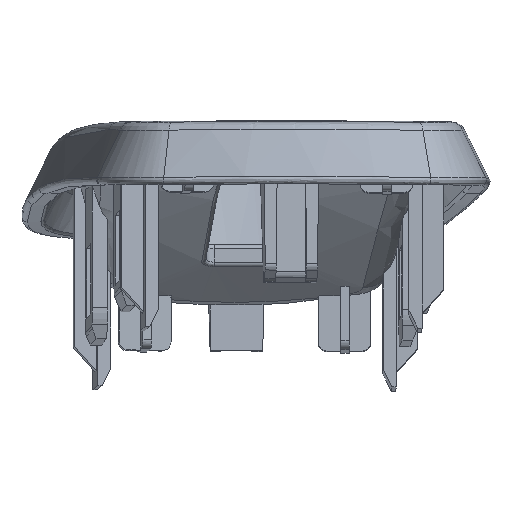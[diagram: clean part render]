
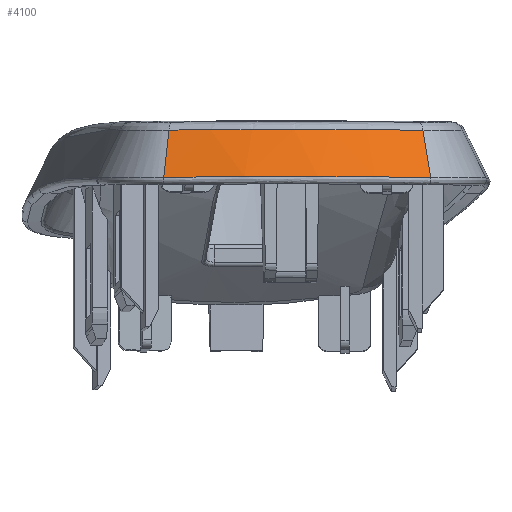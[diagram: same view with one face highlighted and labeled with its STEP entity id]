
A CAD part, top view. The second image highlights one B-rep face of the part: STEP entity #4100.
In plain terms, the highlighted free-form (B-spline) face has degree [5, 1] with [6, 2] control points.
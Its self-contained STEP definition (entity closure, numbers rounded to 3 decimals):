
#2399=CARTESIAN_POINT('Vertex',(136.882,-439.79,1045.759)) ;
#2447=CARTESIAN_POINT('Vertex',(166.043,-439.801,1043.936)) ;
#2451=CARTESIAN_POINT('Control Point',(151.296,-439.721,1046.995)) ;
#2452=CARTESIAN_POINT('Control Point',(148.393,-439.721,1047.169)) ;
#2453=CARTESIAN_POINT('Control Point',(145.473,-439.727,1047.132)) ;
#2454=CARTESIAN_POINT('Control Point',(142.569,-439.741,1046.878)) ;
#2455=CARTESIAN_POINT('Control Point',(139.723,-439.762,1046.407)) ;
#2456=CARTESIAN_POINT('Control Point',(136.882,-439.79,1045.759)) ;
#2457=CARTESIAN_POINT('Vertex',(151.296,-439.721,1046.995)) ;
#2461=CARTESIAN_POINT('Control Point',(166.043,-439.801,1043.936)) ;
#2462=CARTESIAN_POINT('Control Point',(163.146,-439.768,1044.953)) ;
#2463=CARTESIAN_POINT('Control Point',(160.278,-439.745,1045.777)) ;
#2464=CARTESIAN_POINT('Control Point',(157.328,-439.73,1046.405)) ;
#2465=CARTESIAN_POINT('Control Point',(154.321,-439.722,1046.814)) ;
#2466=CARTESIAN_POINT('Control Point',(151.296,-439.721,1046.995)) ;
#3861=CARTESIAN_POINT('Control Point',(136.882,-439.79,1045.759)) ;
#3862=CARTESIAN_POINT('Control Point',(136.763,-440.873,1046.28)) ;
#3863=CARTESIAN_POINT('Control Point',(136.644,-441.957,1046.802)) ;
#3864=CARTESIAN_POINT('Control Point',(136.525,-443.04,1047.323)) ;
#3865=CARTESIAN_POINT('Control Point',(136.406,-444.123,1047.845)) ;
#3866=CARTESIAN_POINT('Control Point',(136.288,-445.206,1048.366)) ;
#3867=CARTESIAN_POINT('Vertex',(136.288,-445.206,1048.366)) ;
#4048=CARTESIAN_POINT('Control Point',(165.896,-438.904,1043.518)) ;
#4049=CARTESIAN_POINT('Control Point',(167.054,-445.993,1046.82)) ;
#4050=CARTESIAN_POINT('Control Point',(160.352,-438.842,1045.465)) ;
#4051=CARTESIAN_POINT('Control Point',(161.131,-445.924,1048.9)) ;
#4052=CARTESIAN_POINT('Control Point',(154.59,-438.811,1046.779)) ;
#4053=CARTESIAN_POINT('Control Point',(154.997,-445.892,1050.285)) ;
#4054=CARTESIAN_POINT('Control Point',(148.602,-438.809,1047.203)) ;
#4055=CARTESIAN_POINT('Control Point',(148.602,-445.89,1050.738)) ;
#4056=CARTESIAN_POINT('Control Point',(142.715,-438.836,1046.636)) ;
#4057=CARTESIAN_POINT('Control Point',(142.316,-445.918,1050.134)) ;
#4058=CARTESIAN_POINT('Control Point',(136.981,-438.893,1045.327)) ;
#4059=CARTESIAN_POINT('Control Point',(136.203,-445.98,1048.739)) ;
#4061=CARTESIAN_POINT('Control Point',(166.043,-439.801,1043.936)) ;
#4062=CARTESIAN_POINT('Control Point',(166.22,-440.886,1044.441)) ;
#4063=CARTESIAN_POINT('Control Point',(166.397,-441.97,1044.946)) ;
#4064=CARTESIAN_POINT('Control Point',(166.574,-443.055,1045.451)) ;
#4065=CARTESIAN_POINT('Control Point',(166.752,-444.139,1045.957)) ;
#4066=CARTESIAN_POINT('Control Point',(166.929,-445.224,1046.462)) ;
#4067=CARTESIAN_POINT('Vertex',(166.929,-445.224,1046.462)) ;
#4071=CARTESIAN_POINT('Control Point',(136.288,-445.206,1048.366)) ;
#4072=CARTESIAN_POINT('Control Point',(136.8,-445.201,1048.483)) ;
#4073=CARTESIAN_POINT('Control Point',(137.316,-445.196,1048.595)) ;
#4074=CARTESIAN_POINT('Control Point',(137.835,-445.191,1048.701)) ;
#4075=CARTESIAN_POINT('Control Point',(138.873,-445.181,1048.901)) ;
#4076=CARTESIAN_POINT('Control Point',(139.917,-445.173,1049.078)) ;
#4077=CARTESIAN_POINT('Control Point',(140.44,-445.169,1049.16)) ;
#4078=CARTESIAN_POINT('Control Point',(142.013,-445.158,1049.386)) ;
#4079=CARTESIAN_POINT('Control Point',(143.595,-445.149,1049.556)) ;
#4080=CARTESIAN_POINT('Control Point',(144.652,-445.144,1049.642)) ;
#4081=CARTESIAN_POINT('Control Point',(147.83,-445.132,1049.82)) ;
#4082=CARTESIAN_POINT('Control Point',(151.015,-445.129,1049.755)) ;
#4083=CARTESIAN_POINT('Control Point',(153.131,-445.13,1049.603)) ;
#4084=CARTESIAN_POINT('Control Point',(156.881,-445.14,1049.142)) ;
#4085=CARTESIAN_POINT('Control Point',(160.557,-445.162,1048.365)) ;
#4086=CARTESIAN_POINT('Control Point',(162.157,-445.174,1047.965)) ;
#4087=CARTESIAN_POINT('Control Point',(164.07,-445.191,1047.417)) ;
#4088=CARTESIAN_POINT('Control Point',(165.954,-445.212,1046.797)) ;
#4089=CARTESIAN_POINT('Control Point',(166.28,-445.216,1046.687)) ;
#4090=CARTESIAN_POINT('Control Point',(166.605,-445.22,1046.575)) ;
#4091=CARTESIAN_POINT('Control Point',(166.929,-445.224,1046.462)) ;
#4094=ORIENTED_EDGE('',*,*,#4069,.F.) ;
#4095=ORIENTED_EDGE('',*,*,#2467,.T.) ;
#4096=ORIENTED_EDGE('',*,*,#2459,.T.) ;
#4097=ORIENTED_EDGE('',*,*,#3869,.F.) ;
#4098=ORIENTED_EDGE('',*,*,#4092,.F.) ;
#4100=ADVANCED_FACE('\X2\51E04F554F53\X0\.2',(#4099),#4047,.T.) ;
#4070=B_SPLINE_CURVE_WITH_KNOTS('',5,(#4071,#4072,#4073,#4074,#4075,#4076,#4077,#4078,#4079,#4080,#4081,#4082,#4083,#4084,#4085,#4086,#4087,#4088,#4089,#4090,#4091),.UNSPECIFIED.,.F.,.U.,(6,3,3,3,3,3,6),(39.412,43.355,47.299,55.185,70.958,83.35,85.95),.UNSPECIFIED.) ;
#4047=B_SPLINE_SURFACE_WITH_KNOTS('',5,1,((#4048,#4049),(#4050,#4051),(#4052,#4053),(#4054,#4055),(#4056,#4057),(#4058,#4059)),.UNSPECIFIED.,.F.,.F.,.U.,(6,6),(2,2),(0.,30.575),(0.,7.909),.UNSPECIFIED.) ;
#2459=EDGE_CURVE('',#2458,#2400,#2450,.T.) ;
#2467=EDGE_CURVE('',#2448,#2458,#2460,.T.) ;
#3869=EDGE_CURVE('',#3868,#2400,#3860,.F.) ;
#4069=EDGE_CURVE('',#2448,#4068,#4060,.T.) ;
#4092=EDGE_CURVE('',#4068,#3868,#4070,.F.) ;
#4093=EDGE_LOOP('',(#4094,#4095,#4096,#4097,#4098)) ;
#4099=FACE_OUTER_BOUND('',#4093,.T.) ;
#2400=VERTEX_POINT('',#2399) ;
#2448=VERTEX_POINT('',#2447) ;
#2458=VERTEX_POINT('',#2457) ;
#3868=VERTEX_POINT('',#3867) ;
#4068=VERTEX_POINT('',#4067) ;
#2450=(BOUNDED_CURVE()B_SPLINE_CURVE(5,(#2451,#2452,#2453,#2454,#2455,#2456),.UNSPECIFIED.,.F.,.U.)B_SPLINE_CURVE_WITH_KNOTS((6,6),(15.044,29.481),.UNSPECIFIED.)CURVE()GEOMETRIC_REPRESENTATION_ITEM()RATIONAL_B_SPLINE_CURVE((1.,1.,1.,1.,1.,1.))REPRESENTATION_ITEM('')) ;
#2460=(BOUNDED_CURVE()B_SPLINE_CURVE(5,(#2461,#2462,#2463,#2464,#2465,#2466),.UNSPECIFIED.,.F.,.U.)B_SPLINE_CURVE_WITH_KNOTS((6,6),(0.,15.044),.UNSPECIFIED.)CURVE()GEOMETRIC_REPRESENTATION_ITEM()RATIONAL_B_SPLINE_CURVE((1.,1.,1.,1.,1.,1.))REPRESENTATION_ITEM('')) ;
#3860=(BOUNDED_CURVE()B_SPLINE_CURVE(5,(#3861,#3862,#3863,#3864,#3865,#3866),.UNSPECIFIED.,.F.,.U.)B_SPLINE_CURVE_WITH_KNOTS((6,6),(1.006,7.084),.UNSPECIFIED.)CURVE()GEOMETRIC_REPRESENTATION_ITEM()RATIONAL_B_SPLINE_CURVE((1.,1.,1.,1.,1.,1.))REPRESENTATION_ITEM('')) ;
#4060=(BOUNDED_CURVE()B_SPLINE_CURVE(5,(#4061,#4062,#4063,#4064,#4065,#4066),.UNSPECIFIED.,.F.,.U.)B_SPLINE_CURVE_WITH_KNOTS((6,6),(1.001,7.051),.UNSPECIFIED.)CURVE()GEOMETRIC_REPRESENTATION_ITEM()RATIONAL_B_SPLINE_CURVE((1.,1.,1.,1.,1.,1.))REPRESENTATION_ITEM('')) ;
